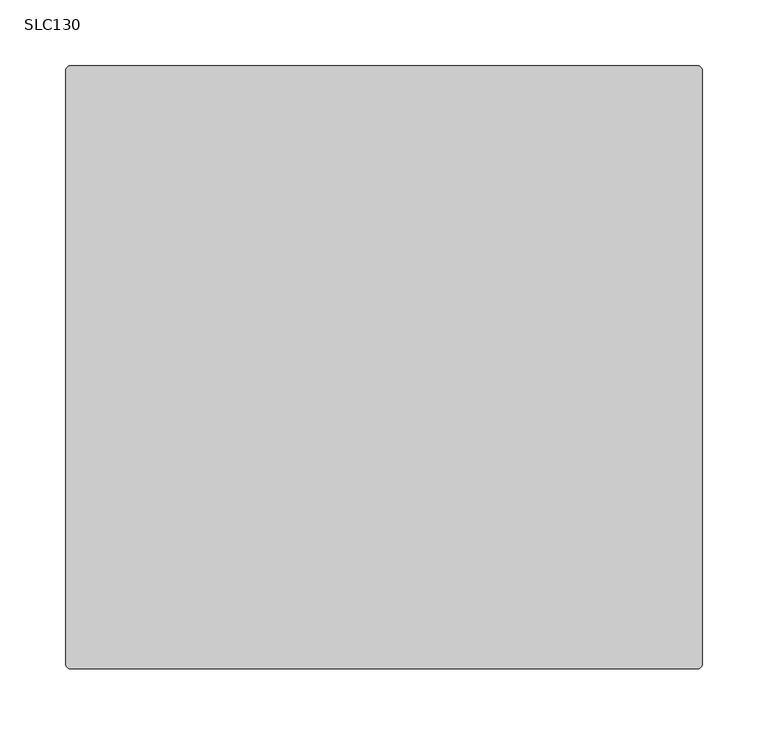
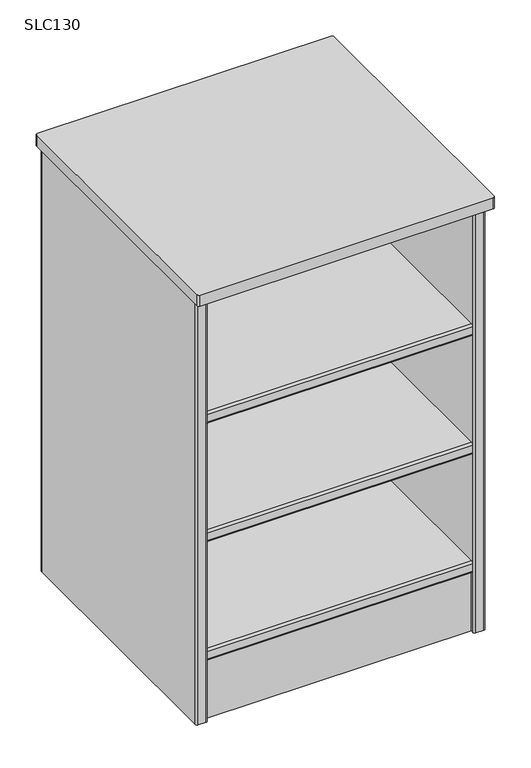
"""IFC4 building model written with IfcOpenShell, lengths in millimetres: furniture geometry, Stance_HC-Lotus-Bedside_Table : SLC130."""

from ifc_helpers import new_model, si_unit, point, frame, frame_2d, origin, origin_with_axes, place, context, project, spatial, polyline, circle_curve, trimmed, segment, composite_curve, outline, extrude, source, transform, mapped, element, save


def slc130_283974c0(model_context):
    return source(origin(), model_context, "Body", "SweptSolid", [
        extrude(outline(composite_curve([segment(polyline([(-434.1812621, 323.850003), (-25.4000008, 323.850003), (-25.4000008, 304.800003), (-434.1812621, 304.800003)]), True, "CONTINUOUS"), segment(trimmed(circle_curve(frame_2d((-434.1812621, 307.975003)), 3.175), [point((-434.1812621, 304.800003))], [point((-437.3562621, 307.975003))], False, "CARTESIAN"), True, "CONTINUOUS"), segment(polyline([(-437.3562621, 307.975003), (-437.3562621, 320.675003)]), True, "CONTINUOUS"), segment(trimmed(circle_curve(frame_2d((-434.1812621, 320.675003)), 3.175), [point((-437.3562621, 320.675003))], [point((-434.1812621, 323.850003))], False, "CARTESIAN"), True, "CONTINUOUS")], self_intersect=False)), frame((25.4000008, 0.0, 0.0), z_axis=(1.0, 0.0, 0.0), x_axis=(0.0, 1.0, 0.0)), (0.0, 0.0, 1.0), 431.7999992),
        extrude(outline(composite_curve([segment(polyline([(-434.1812621, 527.050003), (-25.4000008, 527.050003), (-25.4000008, 508.000003), (-434.1812621, 508.000003)]), True, "CONTINUOUS"), segment(trimmed(circle_curve(frame_2d((-434.1812621, 511.175003)), 3.175), [point((-434.1812621, 508.000003))], [point((-437.3562621, 511.175003))], False, "CARTESIAN"), True, "CONTINUOUS"), segment(polyline([(-437.3562621, 511.175003), (-437.3562621, 523.875003)]), True, "CONTINUOUS"), segment(trimmed(circle_curve(frame_2d((-434.1812621, 523.875003)), 3.175), [point((-437.3562621, 523.875003))], [point((-434.1812621, 527.050003))], False, "CARTESIAN"), True, "CONTINUOUS")], self_intersect=False)), frame((25.4000008, 0.0, 0.0), z_axis=(1.0, 0.0, 0.0), x_axis=(0.0, 1.0, 0.0)), (0.0, 0.0, 1.0), 431.7999992),
        extrude(outline(composite_curve([segment(polyline([(-434.1812621, 120.650003), (-25.4000008, 120.650003), (-25.4000008, 101.600003), (-434.1812621, 101.600003)]), True, "CONTINUOUS"), segment(trimmed(circle_curve(frame_2d((-434.1812621, 104.775003)), 3.175), [point((-434.1812621, 101.600003))], [point((-437.3562621, 104.775003))], False, "CARTESIAN"), True, "CONTINUOUS"), segment(polyline([(-437.3562621, 104.775003), (-437.3562621, 117.475003)]), True, "CONTINUOUS"), segment(trimmed(circle_curve(frame_2d((-434.1812621, 117.475003)), 3.175), [point((-437.3562621, 117.475003))], [point((-434.1812621, 120.650003))], False, "CARTESIAN"), True, "CONTINUOUS")], self_intersect=False)), frame((25.4000008, 0.0, 0.0), z_axis=(1.0, 0.0, 0.0), x_axis=(0.0, 1.0, 0.0)), (0.0, 0.0, 1.0), 431.7999992),
        extrude(outline(composite_curve([segment(trimmed(circle_curve(frame_2d((22.2250008, -6.3500001)), 3.175), [point((22.2250008, -3.1750001))], [point((25.4000008, -6.3500001))], False, "CARTESIAN"), True, "CONTINUOUS"), segment(polyline([(25.4000008, -6.3500001), (25.4000008, -438.1499879)]), True, "CONTINUOUS"), segment(trimmed(circle_curve(frame_2d((22.2250008, -438.1499879)), 3.175), [point((25.4000008, -438.1499879))], [point((22.2250008, -441.3249879))], False, "CARTESIAN"), True, "CONTINUOUS"), segment(polyline([(22.2250008, -441.3249879), (9.5250002, -441.3249879)]), True, "CONTINUOUS"), segment(trimmed(circle_curve(frame_2d((9.5250002, -438.1499879)), 3.175), [point((9.5250002, -441.3249879))], [point((6.3500002, -438.1499879))], False, "CARTESIAN"), True, "CONTINUOUS"), segment(polyline([(6.3500002, -438.1499879), (6.3500002, -6.3500001)]), True, "CONTINUOUS"), segment(trimmed(circle_curve(frame_2d((9.5250002, -6.3500001)), 3.175), [point((6.3500002, -6.3500001))], [point((9.5250002, -3.1750001))], False, "CARTESIAN"), True, "CONTINUOUS"), segment(polyline([(9.5250002, -3.1750001), (22.2250008, -3.1750001)]), True, "CONTINUOUS")], self_intersect=False)), origin_with_axes(), (0.0, 0.0, 1.0), 730.2500121),
        extrude(outline(composite_curve([segment(polyline([(460.375, -3.1750001), (473.0750006, -3.1750001)]), True, "CONTINUOUS"), segment(trimmed(circle_curve(frame_2d((473.0750006, -6.3500001)), 3.175), [point((473.0750006, -3.1750001))], [point((476.2500006, -6.3500001))], False, "CARTESIAN"), True, "CONTINUOUS"), segment(polyline([(476.2500006, -6.3500001), (476.2500006, -438.1499879)]), True, "CONTINUOUS"), segment(trimmed(circle_curve(frame_2d((473.0750006, -438.1499879)), 3.175), [point((476.2500006, -438.1499879))], [point((473.0750006, -441.3249879))], False, "CARTESIAN"), True, "CONTINUOUS"), segment(polyline([(473.0750006, -441.3249879), (460.375, -441.3249879)]), True, "CONTINUOUS"), segment(trimmed(circle_curve(frame_2d((460.375, -438.1499879)), 3.175), [point((460.375, -441.3249879))], [point((457.2, -438.1499879))], False, "CARTESIAN"), True, "CONTINUOUS"), segment(polyline([(457.2, -438.1499879), (457.2, -6.3500001)]), True, "CONTINUOUS"), segment(trimmed(circle_curve(frame_2d((460.375, -6.3500001)), 3.175), [point((457.2, -6.3500001))], [point((460.375, -3.1750001))], False, "CARTESIAN"), True, "CONTINUOUS")], self_intersect=False)), origin_with_axes(), (0.0, 0.0, 1.0), 730.2500121),
        extrude(outline(composite_curve([segment(trimmed(circle_curve(frame_2d((479.425, -3.175)), 3.175), [point((479.425, 0.0))], [point((482.6, -3.175))], False, "CARTESIAN"), True, "CONTINUOUS"), segment(polyline([(482.6, -3.175), (482.6, -454.025)]), True, "CONTINUOUS"), segment(trimmed(circle_curve(frame_2d((479.425, -454.025)), 3.175), [point((482.6, -454.025))], [point((479.425, -457.2))], False, "CARTESIAN"), True, "CONTINUOUS"), segment(polyline([(479.425, -457.2), (3.175, -457.2)]), True, "CONTINUOUS"), segment(trimmed(circle_curve(frame_2d((3.175, -454.025)), 3.175), [point((3.175, -457.2))], [point((0.0, -454.025))], False, "CARTESIAN"), True, "CONTINUOUS"), segment(polyline([(0.0, -454.025), (0.0, -3.175)]), True, "CONTINUOUS"), segment(trimmed(circle_curve(frame_2d((3.175, -3.175)), 3.175), [point((0.0, -3.175))], [point((3.175, 0.0))], False, "CARTESIAN"), True, "CONTINUOUS"), segment(polyline([(3.175, 0.0), (479.425, 0.0)]), True, "CONTINUOUS")], self_intersect=False)), frame((0.0, 0.0, 730.2500121), z_axis=(0.0, 0.0, 1.0), x_axis=(1.0, 0.0, 0.0)), (0.0, 0.0, 1.0), 19.0499879),
        extrude(outline(polyline([(25.4000008, -414.3375), (457.2, -414.3375), (457.2, -433.3875), (25.4000008, -433.3875), (25.4000008, -414.3375)])), origin_with_axes(), (0.0, 0.0, 1.0), 101.600003),
        extrude(outline(polyline([(457.2, -19.05), (25.4000008, -19.05), (25.4000008, 0.0), (457.2, 0.0), (457.2, -19.05)])), origin_with_axes(), (0.0, 0.0, 1.0), 730.2500121),
    ])


if __name__ == "__main__":
    model = new_model("IFC4")
    model_context = context("Model", 3, world=origin())
    ifc_project = project(units=[si_unit("LENGTHUNIT", "METRE", prefix="MILLI")], contexts=[model_context])
    site = spatial("IfcSite", under=ifc_project)
    building = spatial("IfcBuilding", under=site)
    placement = place(None, origin())
    slc130_shape = slc130_283974c0(model_context)
    element("IfcFurniture", 1, ObjectType="Stance_HC-Lotus-Bedside_Table : SLC130", at=placement, inside=building, context=model_context, shape_type="MappedRepresentation", body=[
        mapped(slc130_shape, transform((0.0, 0.0, 0.0), x_axis=(1.0, 0.0, 0.0), y_axis=(0.0, 1.0, 0.0), z_axis=(0.0, 0.0, 1.0))),
    ])
    save(model, "model.ifc")
